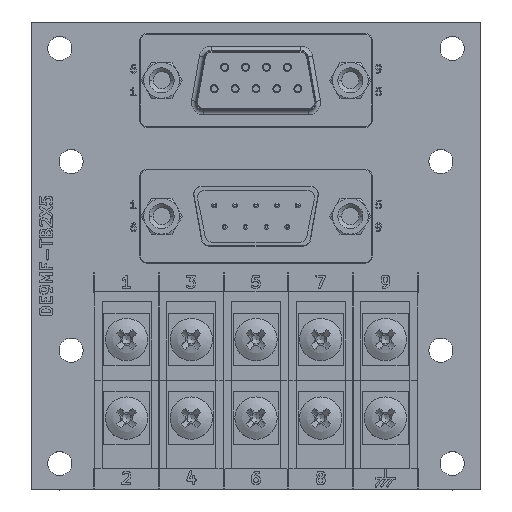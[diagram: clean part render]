
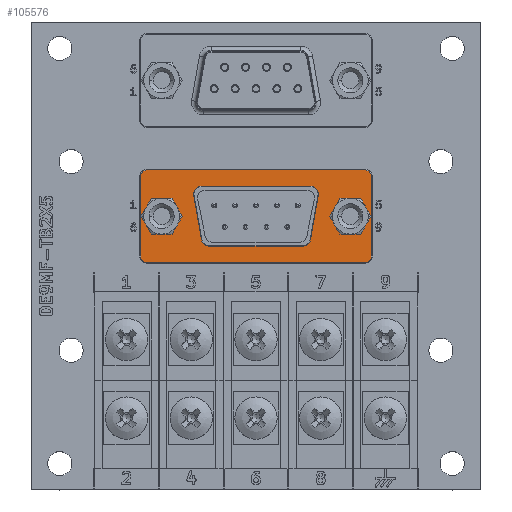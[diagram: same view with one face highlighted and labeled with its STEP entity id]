
A CAD part, top view. The second image highlights one B-rep face of the part: STEP entity #105576.
In plain terms, the highlighted planar face has unit normal (0, 0, 1).
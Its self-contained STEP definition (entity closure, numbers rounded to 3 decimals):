
#105385 = VERTEX_POINT('',#105386);
#105386 = CARTESIAN_POINT('',(-1.729,2.53,4.7));
#105392 = EDGE_CURVE('',#105385,#105393,#105395,.T.);
#105393 = VERTEX_POINT('',#105394);
#105394 = CARTESIAN_POINT('',(-2.714,1.357,4.7));
#105395 = CIRCLE('',#105396,1.);
#105396 = AXIS2_PLACEMENT_3D('',#105397,#105398,#105399);
#105397 = CARTESIAN_POINT('',(-1.729,1.53,4.7));
#105398 = DIRECTION('',(-0.,0.,1.));
#105399 = DIRECTION('',(0.,-1.,0.));
#105419 = VERTEX_POINT('',#105420);
#105420 = CARTESIAN_POINT('',(12.809,2.53,4.7));
#105426 = EDGE_CURVE('',#105385,#105419,#105427,.T.);
#105427 = LINE('',#105428,#105429);
#105428 = CARTESIAN_POINT('',(-2.92,2.53,4.7));
#105429 = VECTOR('',#105430,1.);
#105430 = DIRECTION('',(1.,0.,0.));
#105441 = VERTEX_POINT('',#105442);
#105442 = CARTESIAN_POINT('',(-1.68,-4.543,4.7));
#105450 = EDGE_CURVE('',#105441,#105393,#105451,.T.);
#105451 = LINE('',#105452,#105453);
#105452 = CARTESIAN_POINT('',(-1.535,-5.37,4.7));
#105453 = VECTOR('',#105454,1.);
#105454 = DIRECTION('',(-0.173,0.985,0.));
#105466 = VERTEX_POINT('',#105467);
#105467 = CARTESIAN_POINT('',(13.794,1.357,4.7));
#105473 = EDGE_CURVE('',#105419,#105466,#105474,.T.);
#105474 = CIRCLE('',#105475,1.);
#105475 = AXIS2_PLACEMENT_3D('',#105476,#105477,#105478);
#105476 = CARTESIAN_POINT('',(12.809,1.53,4.7));
#105477 = DIRECTION('',(-0.,-0.,-1.));
#105478 = DIRECTION('',(0.,-1.,0.));
#105491 = EDGE_CURVE('',#105492,#105441,#105494,.T.);
#105492 = VERTEX_POINT('',#105493);
#105493 = CARTESIAN_POINT('',(-0.695,-5.37,4.7));
#105494 = CIRCLE('',#105495,1.);
#105495 = AXIS2_PLACEMENT_3D('',#105496,#105497,#105498);
#105496 = CARTESIAN_POINT('',(-0.695,-4.37,4.7));
#105497 = DIRECTION('',(-0.,-0.,-1.));
#105498 = DIRECTION('',(0.,-1.,0.));
#105515 = VERTEX_POINT('',#105516);
#105516 = CARTESIAN_POINT('',(12.76,-4.543,4.7));
#105522 = EDGE_CURVE('',#105466,#105515,#105523,.T.);
#105523 = LINE('',#105524,#105525);
#105524 = CARTESIAN_POINT('',(14.,2.53,4.7));
#105525 = VECTOR('',#105526,1.);
#105526 = DIRECTION('',(-0.173,-0.985,0.));
#105539 = EDGE_CURVE('',#105540,#105492,#105542,.T.);
#105540 = VERTEX_POINT('',#105541);
#105541 = CARTESIAN_POINT('',(11.775,-5.37,4.7));
#105542 = LINE('',#105543,#105544);
#105543 = CARTESIAN_POINT('',(12.615,-5.37,4.7));
#105544 = VECTOR('',#105545,1.);
#105545 = DIRECTION('',(-1.,0.,0.));
#105564 = EDGE_CURVE('',#105515,#105540,#105565,.T.);
#105565 = CIRCLE('',#105566,1.);
#105566 = AXIS2_PLACEMENT_3D('',#105567,#105568,#105569);
#105567 = CARTESIAN_POINT('',(11.775,-4.37,4.7));
#105568 = DIRECTION('',(-0.,-0.,-1.));
#105569 = DIRECTION('',(0.,-1.,0.));
#105576 = ADVANCED_FACE('',(#105577,#105647,#105658,#105668),#105679,.T.
  );
#105577 = FACE_BOUND('',#105578,.T.);
#105578 = EDGE_LOOP('',(#105579,#105590,#105598,#105607,#105615,#105624,
    #105632,#105641));
#105579 = ORIENTED_EDGE('',*,*,#105580,.T.);
#105580 = EDGE_CURVE('',#105581,#105583,#105585,.T.);
#105581 = VERTEX_POINT('',#105582);
#105582 = CARTESIAN_POINT('',(20.84,3.83,4.7));
#105583 = VERTEX_POINT('',#105584);
#105584 = CARTESIAN_POINT('',(19.94,4.73,4.7));
#105585 = CIRCLE('',#105586,0.9);
#105586 = AXIS2_PLACEMENT_3D('',#105587,#105588,#105589);
#105587 = CARTESIAN_POINT('',(19.94,3.83,4.7));
#105588 = DIRECTION('',(0.,0.,1.));
#105589 = DIRECTION('',(1.,0.,0.));
#105590 = ORIENTED_EDGE('',*,*,#105591,.T.);
#105591 = EDGE_CURVE('',#105583,#105592,#105594,.T.);
#105592 = VERTEX_POINT('',#105593);
#105593 = CARTESIAN_POINT('',(-8.86,4.73,4.7));
#105594 = LINE('',#105595,#105596);
#105595 = CARTESIAN_POINT('',(19.94,4.73,4.7));
#105596 = VECTOR('',#105597,1.);
#105597 = DIRECTION('',(-1.,0.,0.));
#105598 = ORIENTED_EDGE('',*,*,#105599,.T.);
#105599 = EDGE_CURVE('',#105592,#105600,#105602,.T.);
#105600 = VERTEX_POINT('',#105601);
#105601 = CARTESIAN_POINT('',(-9.76,3.83,4.7));
#105602 = CIRCLE('',#105603,0.9);
#105603 = AXIS2_PLACEMENT_3D('',#105604,#105605,#105606);
#105604 = CARTESIAN_POINT('',(-8.86,3.83,4.7));
#105605 = DIRECTION('',(0.,-0.,1.));
#105606 = DIRECTION('',(0.,1.,0.));
#105607 = ORIENTED_EDGE('',*,*,#105608,.T.);
#105608 = EDGE_CURVE('',#105600,#105609,#105611,.T.);
#105609 = VERTEX_POINT('',#105610);
#105610 = CARTESIAN_POINT('',(-9.76,-6.67,4.7));
#105611 = LINE('',#105612,#105613);
#105612 = CARTESIAN_POINT('',(-9.76,3.83,4.7));
#105613 = VECTOR('',#105614,1.);
#105614 = DIRECTION('',(0.,-1.,0.));
#105615 = ORIENTED_EDGE('',*,*,#105616,.T.);
#105616 = EDGE_CURVE('',#105609,#105617,#105619,.T.);
#105617 = VERTEX_POINT('',#105618);
#105618 = CARTESIAN_POINT('',(-8.86,-7.57,4.7));
#105619 = CIRCLE('',#105620,0.9);
#105620 = AXIS2_PLACEMENT_3D('',#105621,#105622,#105623);
#105621 = CARTESIAN_POINT('',(-8.86,-6.67,4.7));
#105622 = DIRECTION('',(0.,0.,1.));
#105623 = DIRECTION('',(-1.,0.,0.));
#105624 = ORIENTED_EDGE('',*,*,#105625,.T.);
#105625 = EDGE_CURVE('',#105617,#105626,#105628,.T.);
#105626 = VERTEX_POINT('',#105627);
#105627 = CARTESIAN_POINT('',(19.94,-7.57,4.7));
#105628 = LINE('',#105629,#105630);
#105629 = CARTESIAN_POINT('',(-8.86,-7.57,4.7));
#105630 = VECTOR('',#105631,1.);
#105631 = DIRECTION('',(1.,0.,0.));
#105632 = ORIENTED_EDGE('',*,*,#105633,.T.);
#105633 = EDGE_CURVE('',#105626,#105634,#105636,.T.);
#105634 = VERTEX_POINT('',#105635);
#105635 = CARTESIAN_POINT('',(20.84,-6.67,4.7));
#105636 = CIRCLE('',#105637,0.9);
#105637 = AXIS2_PLACEMENT_3D('',#105638,#105639,#105640);
#105638 = CARTESIAN_POINT('',(19.94,-6.67,4.7));
#105639 = DIRECTION('',(-0.,0.,1.));
#105640 = DIRECTION('',(0.,-1.,0.));
#105641 = ORIENTED_EDGE('',*,*,#105642,.T.);
#105642 = EDGE_CURVE('',#105634,#105581,#105643,.T.);
#105643 = LINE('',#105644,#105645);
#105644 = CARTESIAN_POINT('',(20.84,-6.67,4.7));
#105645 = VECTOR('',#105646,1.);
#105646 = DIRECTION('',(0.,1.,0.));
#105647 = FACE_BOUND('',#105648,.T.);
#105648 = EDGE_LOOP('',(#105649));
#105649 = ORIENTED_EDGE('',*,*,#105650,.F.);
#105650 = EDGE_CURVE('',#105651,#105651,#105653,.T.);
#105651 = VERTEX_POINT('',#105652);
#105652 = CARTESIAN_POINT('',(-5.26,-1.42,4.7));
#105653 = CIRCLE('',#105654,1.7);
#105654 = AXIS2_PLACEMENT_3D('',#105655,#105656,#105657);
#105655 = CARTESIAN_POINT('',(-6.96,-1.42,4.7));
#105656 = DIRECTION('',(0.,0.,1.));
#105657 = DIRECTION('',(1.,0.,0.));
#105658 = FACE_BOUND('',#105659,.T.);
#105659 = EDGE_LOOP('',(#105660,#105661,#105662,#105663,#105664,#105665,
    #105666,#105667));
#105660 = ORIENTED_EDGE('',*,*,#105539,.T.);
#105661 = ORIENTED_EDGE('',*,*,#105491,.T.);
#105662 = ORIENTED_EDGE('',*,*,#105450,.T.);
#105663 = ORIENTED_EDGE('',*,*,#105392,.F.);
#105664 = ORIENTED_EDGE('',*,*,#105426,.T.);
#105665 = ORIENTED_EDGE('',*,*,#105473,.T.);
#105666 = ORIENTED_EDGE('',*,*,#105522,.T.);
#105667 = ORIENTED_EDGE('',*,*,#105564,.T.);
#105668 = FACE_BOUND('',#105669,.T.);
#105669 = EDGE_LOOP('',(#105670));
#105670 = ORIENTED_EDGE('',*,*,#105671,.F.);
#105671 = EDGE_CURVE('',#105672,#105672,#105674,.T.);
#105672 = VERTEX_POINT('',#105673);
#105673 = CARTESIAN_POINT('',(19.74,-1.42,4.7));
#105674 = CIRCLE('',#105675,1.7);
#105675 = AXIS2_PLACEMENT_3D('',#105676,#105677,#105678);
#105676 = CARTESIAN_POINT('',(18.04,-1.42,4.7));
#105677 = DIRECTION('',(0.,0.,1.));
#105678 = DIRECTION('',(1.,0.,0.));
#105679 = PLANE('',#105680);
#105680 = AXIS2_PLACEMENT_3D('',#105681,#105682,#105683);
#105681 = CARTESIAN_POINT('',(5.54,-1.42,4.7));
#105682 = DIRECTION('',(0.,0.,1.));
#105683 = DIRECTION('',(1.,0.,0.));
